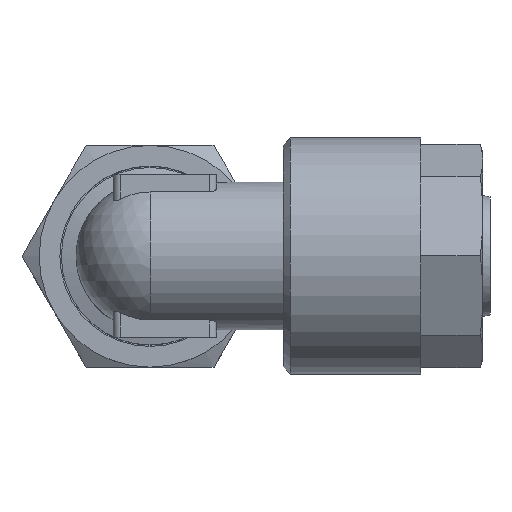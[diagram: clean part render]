
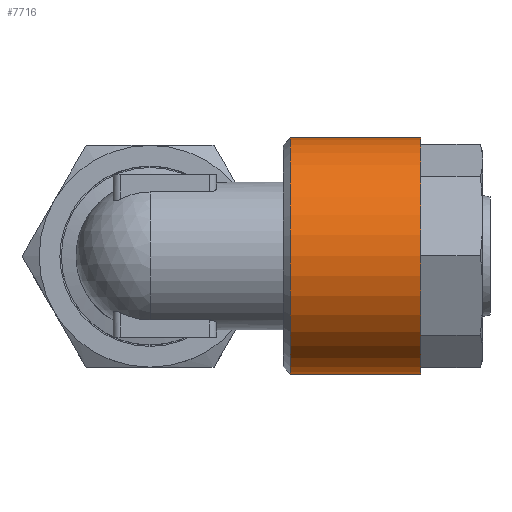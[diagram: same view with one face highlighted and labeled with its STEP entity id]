
A CAD part, top view. The second image highlights one B-rep face of the part: STEP entity #7716.
In plain terms, the highlighted cylindrical face has radius 8 mm (diameter 16 mm), a full revolution.
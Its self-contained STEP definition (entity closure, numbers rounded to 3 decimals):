
#2338=CYLINDRICAL_SURFACE('',#7491,8.);
#2453=ORIENTED_EDGE('',*,*,#3036,.F.);
#2454=ORIENTED_EDGE('',*,*,#3037,.T.);
#2786=CIRCLE('',#7490,8.);
#2787=CIRCLE('',#7492,8.);
#2878=VERTEX_POINT('',#4072);
#2879=VERTEX_POINT('',#4075);
#3036=EDGE_CURVE('',#2878,#2878,#2786,.T.);
#3037=EDGE_CURVE('',#2879,#2879,#2787,.T.);
#3224=EDGE_LOOP('',(#2453));
#3225=EDGE_LOOP('',(#2454));
#3359=FACE_BOUND('',#3224,.T.);
#3360=FACE_BOUND('',#3225,.T.);
#3584=DIRECTION('',(0.,1.,0.));
#3585=DIRECTION('',(0.,0.,-8.));
#3586=DIRECTION('',(0.,1.,0.));
#3587=DIRECTION('',(1.,0.,0.));
#3588=DIRECTION('',(0.,1.,0.));
#3589=DIRECTION('',(0.,0.,8.));
#4072=CARTESIAN_POINT('',(26.989,23.895,-8.));
#4073=CARTESIAN_POINT('',(26.989,23.895,0.));
#4074=CARTESIAN_POINT('',(26.989,15.095,0.));
#4075=CARTESIAN_POINT('',(26.989,15.095,8.));
#4076=CARTESIAN_POINT('',(26.989,15.095,0.));
#7490=AXIS2_PLACEMENT_3D('',#4073,#3584,#3585);
#7491=AXIS2_PLACEMENT_3D('',#4074,#3586,#3587);
#7492=AXIS2_PLACEMENT_3D('',#4076,#3588,#3589);
#7716=ADVANCED_FACE('',(#3359,#3360),#2338,.T.);
